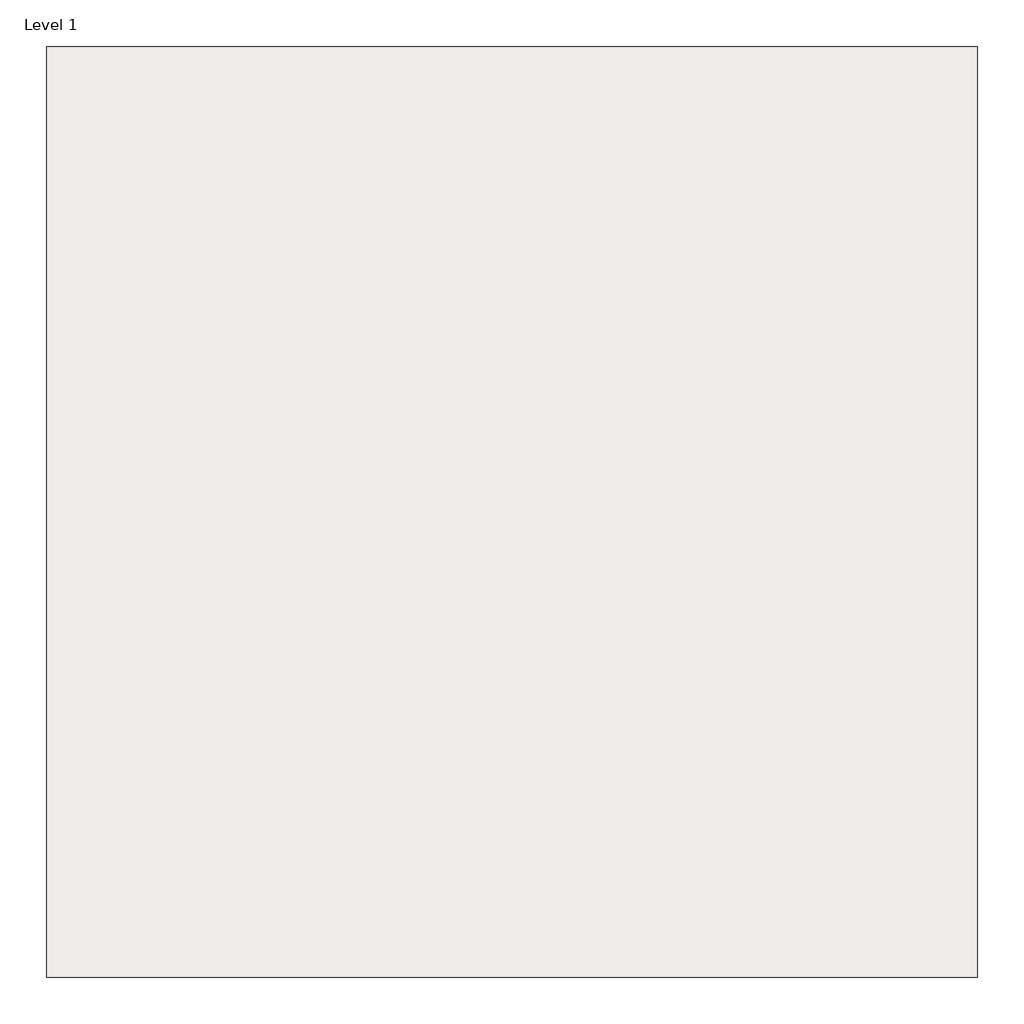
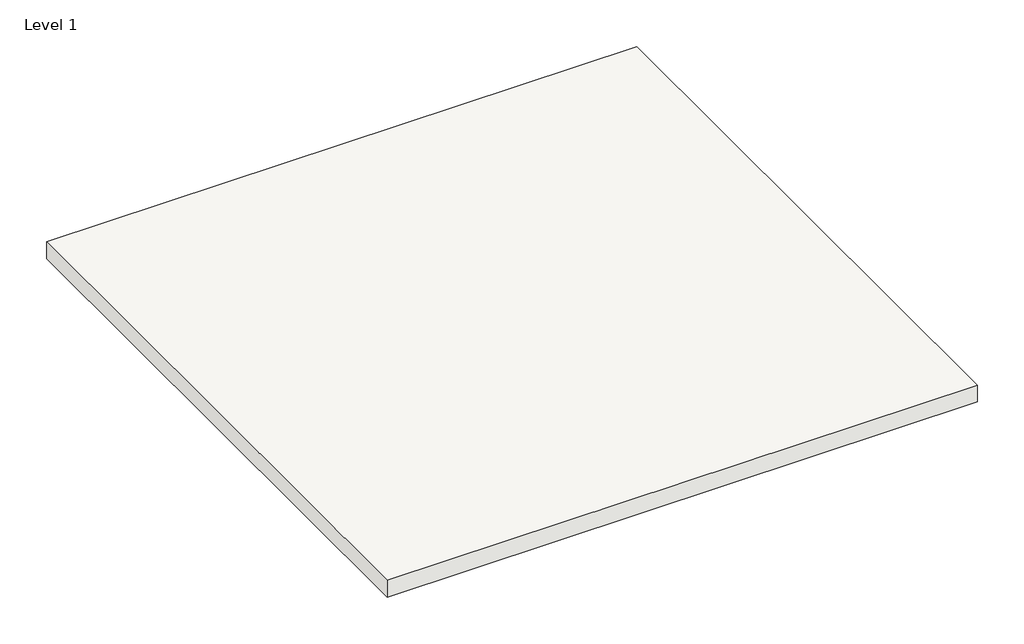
# One storey: 1 covering.
"""IFC4 building model written with IfcOpenShell, lengths in millimetres."""

from ifc_helpers import new_model, si_unit, origin, origin_with_axes, place, context, project, spatial, polyline, outline, extrude, element, save

model = new_model("IFC4")

# Units and contexts
model_context = context("Model", 3, world=origin())
ifc_project = project(units=[si_unit("LENGTHUNIT", "METRE", prefix="MILLI")], contexts=[model_context])

# Site, building, storey
site = spatial("IfcSite", under=ifc_project)
building = spatial("IfcBuilding", under=site)
storey = spatial("IfcBuildingStorey", under=building, Name="Level 1", Elevation=0.0)

# Covering
placement = place(None, origin())
element("IfcCovering", 1, ObjectType="RIGIPS - 4.10.17 - EI 60, REI 60 - 30dB", at=placement, inside=storey, context=model_context, shape_type="SweptSolid", body=[
    extrude(outline(polyline([(-1500.0, 1500.0), (1500.0, 1500.0), (1500.0, -1500.0), (-1500.0, -1500.0), (-1500.0, 1500.0)])), origin_with_axes(), (0.0, 0.0, 1.0), 90.0),
])

save(model, "model.ifc")
